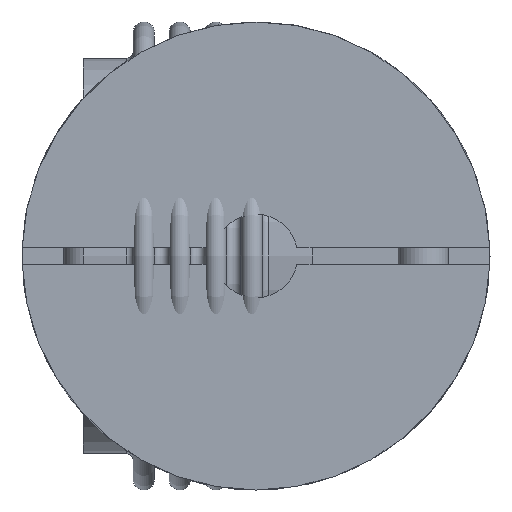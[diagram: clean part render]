
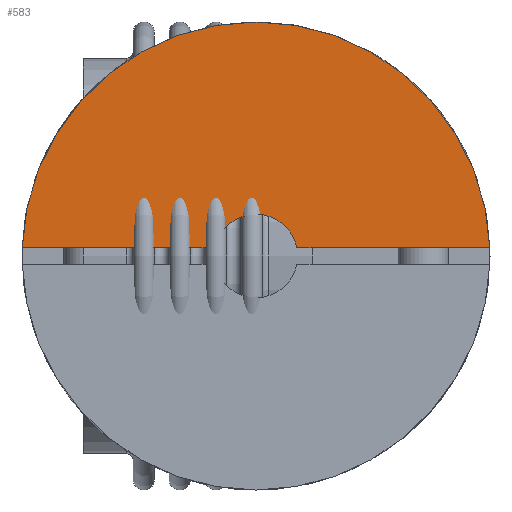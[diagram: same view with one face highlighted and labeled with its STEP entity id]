
A CAD part, front view. The second image highlights one B-rep face of the part: STEP entity #583.
In plain terms, the highlighted planar face has unit normal (0, -1, 0).
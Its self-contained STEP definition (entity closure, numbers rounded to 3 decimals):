
#583 = ADVANCED_FACE( '', ( #868 ), #869, .F. );
#868 = FACE_OUTER_BOUND( '', #1055, .T. );
#869 = PLANE( '', #1056 );
#1055 = EDGE_LOOP( '', ( #1298, #1299, #1300, #1301 ) );
#1056 = AXIS2_PLACEMENT_3D( '', #1302, #1303, #1304 );
#1298 = ORIENTED_EDGE( '', *, *, #1668, .F. );
#1299 = ORIENTED_EDGE( '', *, *, #1657, .F. );
#1300 = ORIENTED_EDGE( '', *, *, #1669, .F. );
#1301 = ORIENTED_EDGE( '', *, *, #1667, .T. );
#1302 = CARTESIAN_POINT( '', ( 0., -27., 0. ) );
#1303 = DIRECTION( '', ( 0., 1., 0. ) );
#1304 = DIRECTION( '', ( 0., 0., 1. ) );
#1657 = EDGE_CURVE( '', #1852, #1854, #1855, .T. );
#1667 = EDGE_CURVE( '', #1868, #1872, #1874, .T. );
#1668 = EDGE_CURVE( '', #1854, #1872, #1875, .T. );
#1669 = EDGE_CURVE( '', #1868, #1852, #1876, .T. );
#1852 = VERTEX_POINT( '', #2063 );
#1854 = VERTEX_POINT( '', #2066 );
#1855 = CIRCLE( '', #2067, 28. );
#1868 = VERTEX_POINT( '', #2162 );
#1872 = VERTEX_POINT( '', #2167 );
#1874 = CIRCLE( '', #2170, 5. );
#1875 = LINE( '', #2171, #2172 );
#1876 = LINE( '', #2173, #2174 );
#2063 = CARTESIAN_POINT( '', ( -27.982, -27., 1. ) );
#2066 = CARTESIAN_POINT( '', ( 27.982, -27., 1. ) );
#2067 = AXIS2_PLACEMENT_3D( '', #2426, #2427, #2428 );
#2162 = CARTESIAN_POINT( '', ( -4.899, -27., 1. ) );
#2167 = CARTESIAN_POINT( '', ( 4.899, -27., 1. ) );
#2170 = AXIS2_PLACEMENT_3D( '', #2447, #2448, #2449 );
#2171 = CARTESIAN_POINT( '', ( 0., -27., 1. ) );
#2172 = VECTOR( '', #2450, 1000. );
#2173 = CARTESIAN_POINT( '', ( 0., -27., 1. ) );
#2174 = VECTOR( '', #2451, 1000. );
#2426 = CARTESIAN_POINT( '', ( 0., -27., 0. ) );
#2427 = DIRECTION( '', ( 0., 1., 0. ) );
#2428 = DIRECTION( '', ( 1., 0., 0. ) );
#2447 = CARTESIAN_POINT( '', ( 0., -27., 0. ) );
#2448 = DIRECTION( '', ( 0., 1., 0. ) );
#2449 = DIRECTION( '', ( 1., 0., 0. ) );
#2450 = DIRECTION( '', ( -1., 0., 0. ) );
#2451 = DIRECTION( '', ( -1., 0., 0. ) );
